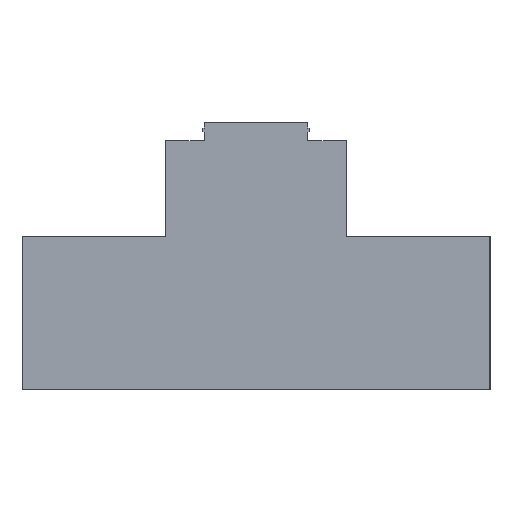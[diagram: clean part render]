
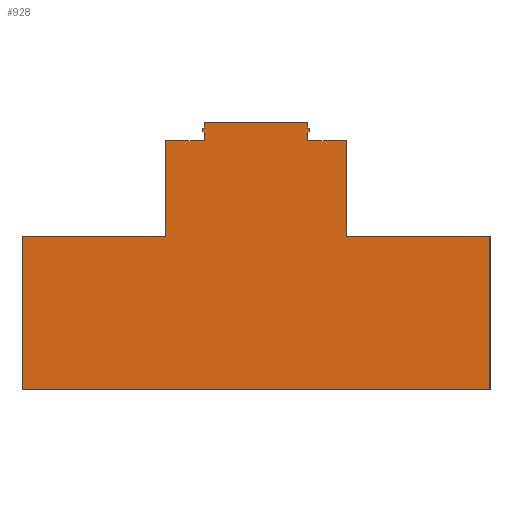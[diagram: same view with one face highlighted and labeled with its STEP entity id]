
A CAD part, left-side view. The second image highlights one B-rep face of the part: STEP entity #928.
In plain terms, the highlighted planar face has unit normal (-1, 0, 0).
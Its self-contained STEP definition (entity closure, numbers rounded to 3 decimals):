
#8 = ORIENTED_EDGE ( 'NONE', *, *, #248, .F. ) ;
#11 = LINE ( 'NONE', #999, #570 ) ;
#16 = EDGE_CURVE ( 'NONE', #131, #1057, #199, .T. ) ;
#21 = ORIENTED_EDGE ( 'NONE', *, *, #550, .T. ) ;
#25 = ORIENTED_EDGE ( 'NONE', *, *, #419, .T. ) ;
#39 = ORIENTED_EDGE ( 'NONE', *, *, #240, .T. ) ;
#46 = EDGE_CURVE ( 'NONE', #761, #475, #1084, .T. ) ;
#57 = LINE ( 'NONE', #408, #558 ) ;
#61 = CARTESIAN_POINT ( 'NONE',  ( -62.3, 8.5, -39.4 ) ) ;
#81 = ORIENTED_EDGE ( 'NONE', *, *, #198, .T. ) ;
#104 = CARTESIAN_POINT ( 'NONE',  ( -62.3, -8.5, 4.8 ) ) ;
#105 = LINE ( 'NONE', #275, #995 ) ;
#108 = VECTOR ( 'NONE', #808, 1000. ) ;
#122 = LINE ( 'NONE', #463, #883 ) ;
#123 = CARTESIAN_POINT ( 'NONE',  ( -62.3, 46.851, -17.005 ) ) ;
#131 = VERTEX_POINT ( 'NONE', #872 ) ;
#155 = CARTESIAN_POINT ( 'NONE',  ( -62.3, 49.071, -10.907 ) ) ;
#162 = ORIENTED_EDGE ( 'NONE', *, *, #1076, .F. ) ;
#166 = DIRECTION ( 'NONE',  ( 0., 0., -1. ) ) ;
#170 = CARTESIAN_POINT ( 'NONE',  ( -62.3, 38.5, -39.2 ) ) ;
#177 = CARTESIAN_POINT ( 'NONE',  ( -62.3, 14.9, -14. ) ) ;
#189 = VECTOR ( 'NONE', #714, 1000. ) ;
#198 = EDGE_CURVE ( 'NONE', #215, #527, #393, .T. ) ;
#199 = LINE ( 'NONE', #123, #189 ) ;
#202 = CARTESIAN_POINT ( 'NONE',  ( -62.3, 38.5, 5. ) ) ;
#203 = EDGE_CURVE ( 'NONE', #1057, #730, #479, .T. ) ;
#206 = CARTESIAN_POINT ( 'NONE',  ( -62.3, -14.9, -14. ) ) ;
#212 = DIRECTION ( 'NONE',  ( 0., 0., -1. ) ) ;
#215 = VERTEX_POINT ( 'NONE', #557 ) ;
#218 = ORIENTED_EDGE ( 'NONE', *, *, #16, .F. ) ;
#221 = DIRECTION ( 'NONE',  ( 0., 0., -1. ) ) ;
#226 = LINE ( 'NONE', #376, #794 ) ;
#234 = CARTESIAN_POINT ( 'NONE',  ( -62.3, 38.7, -39.4 ) ) ;
#240 = EDGE_CURVE ( 'NONE', #1002, #311, #431, .T. ) ;
#248 = EDGE_CURVE ( 'NONE', #908, #559, #11, .T. ) ;
#253 = CARTESIAN_POINT ( 'NONE',  ( -62.3, 38.7, 1.8 ) ) ;
#262 = DIRECTION ( 'NONE',  ( 0., 0., -1. ) ) ;
#265 = LINE ( 'NONE', #615, #608 ) ;
#275 = CARTESIAN_POINT ( 'NONE',  ( -62.3, 21.495, 7.871 ) ) ;
#283 = ORIENTED_EDGE ( 'NONE', *, *, #751, .F. ) ;
#292 = CARTESIAN_POINT ( 'NONE',  ( -62.3, 38.7, 1.8 ) ) ;
#296 = EDGE_CURVE ( 'NONE', #559, #761, #1071, .T. ) ;
#306 = DIRECTION ( 'NONE',  ( 0., -0.94, -0.342 ) ) ;
#311 = VERTEX_POINT ( 'NONE', #609 ) ;
#312 = CARTESIAN_POINT ( 'NONE',  ( -62.3, 14.9, -14. ) ) ;
#319 = CARTESIAN_POINT ( 'NONE',  ( -62.3, 8.5, 4.8 ) ) ;
#326 = CARTESIAN_POINT ( 'NONE',  ( -62.3, 8.8, 3.75 ) ) ;
#350 = EDGE_CURVE ( 'NONE', #372, #621, #478, .T. ) ;
#351 = VERTEX_POINT ( 'NONE', #400 ) ;
#357 = VECTOR ( 'NONE', #481, 1000. ) ;
#372 = VERTEX_POINT ( 'NONE', #549 ) ;
#376 = CARTESIAN_POINT ( 'NONE',  ( -62.3, -38.5, 5. ) ) ;
#387 = VERTEX_POINT ( 'NONE', #312 ) ;
#388 = DIRECTION ( 'NONE',  ( 0., -1., 0. ) ) ;
#393 = LINE ( 'NONE', #202, #936 ) ;
#396 = PLANE ( 'NONE',  #700 ) ;
#399 = LINE ( 'NONE', #563, #434 ) ;
#400 = CARTESIAN_POINT ( 'NONE',  ( -62.3, -14.9, 1.8 ) ) ;
#401 = EDGE_CURVE ( 'NONE', #311, #351, #797, .T. ) ;
#406 = ORIENTED_EDGE ( 'NONE', *, *, #522, .F. ) ;
#408 = CARTESIAN_POINT ( 'NONE',  ( -62.3, 38.7, 4.8 ) ) ;
#413 = FACE_OUTER_BOUND ( 'NONE', #692, .T. ) ;
#419 = EDGE_CURVE ( 'NONE', #561, #1002, #226, .T. ) ;
#421 = LINE ( 'NONE', #253, #812 ) ;
#426 = DIRECTION ( 'NONE',  ( 0., 1., 0. ) ) ;
#431 = LINE ( 'NONE', #664, #880 ) ;
#434 = VECTOR ( 'NONE', #306, 1000. ) ;
#442 = DIRECTION ( 'NONE',  ( 0., 0.94, 0.342 ) ) ;
#463 = CARTESIAN_POINT ( 'NONE',  ( -62.3, -8.5, -39.4 ) ) ;
#469 = VECTOR ( 'NONE', #262, 1000. ) ;
#472 = EDGE_CURVE ( 'NONE', #730, #351, #421, .T. ) ;
#475 = VERTEX_POINT ( 'NONE', #319 ) ;
#478 = LINE ( 'NONE', #61, #108 ) ;
#479 = LINE ( 'NONE', #551, #622 ) ;
#481 = DIRECTION ( 'NONE',  ( 0., 0., 1. ) ) ;
#498 = DIRECTION ( 'NONE',  ( 0., -1., 0. ) ) ;
#499 = DIRECTION ( 'NONE',  ( 0., -1., 0. ) ) ;
#503 = VERTEX_POINT ( 'NONE', #669 ) ;
#505 = VECTOR ( 'NONE', #996, 1000. ) ;
#515 = ORIENTED_EDGE ( 'NONE', *, *, #851, .F. ) ;
#522 = EDGE_CURVE ( 'NONE', #561, #527, #844, .T. ) ;
#527 = VERTEX_POINT ( 'NONE', #170 ) ;
#549 = CARTESIAN_POINT ( 'NONE',  ( -62.3, 8.5, 1.8 ) ) ;
#550 = EDGE_CURVE ( 'NONE', #387, #215, #903, .T. ) ;
#551 = CARTESIAN_POINT ( 'NONE',  ( -62.3, -8.5, -39.4 ) ) ;
#557 = CARTESIAN_POINT ( 'NONE',  ( -62.3, 38.5, -14. ) ) ;
#558 = VECTOR ( 'NONE', #499, 1000. ) ;
#559 = VERTEX_POINT ( 'NONE', #326 ) ;
#561 = VERTEX_POINT ( 'NONE', #661 ) ;
#563 = CARTESIAN_POINT ( 'NONE',  ( -62.3, 19.275, 13.969 ) ) ;
#570 = VECTOR ( 'NONE', #1013, 1000. ) ;
#583 = EDGE_CURVE ( 'NONE', #660, #387, #943, .T. ) ;
#591 = VECTOR ( 'NONE', #388, 1000. ) ;
#595 = CARTESIAN_POINT ( 'NONE',  ( -62.3, 8.5, 3.859 ) ) ;
#597 = VERTEX_POINT ( 'NONE', #104 ) ;
#608 = VECTOR ( 'NONE', #166, 1000. ) ;
#609 = CARTESIAN_POINT ( 'NONE',  ( -62.3, -14.9, -14. ) ) ;
#615 = CARTESIAN_POINT ( 'NONE',  ( -62.3, -8.8, -39.4 ) ) ;
#621 = VERTEX_POINT ( 'NONE', #1051 ) ;
#622 = VECTOR ( 'NONE', #718, 1000. ) ;
#633 = ORIENTED_EDGE ( 'NONE', *, *, #296, .F. ) ;
#648 = DIRECTION ( 'NONE',  ( 0., 0., 1. ) ) ;
#652 = EDGE_CURVE ( 'NONE', #503, #987, #399, .T. ) ;
#660 = VERTEX_POINT ( 'NONE', #957 ) ;
#661 = CARTESIAN_POINT ( 'NONE',  ( -62.3, -38.5, -39.2 ) ) ;
#664 = CARTESIAN_POINT ( 'NONE',  ( -62.3, -38.7, -14. ) ) ;
#667 = CARTESIAN_POINT ( 'NONE',  ( -62.3, -8.5, 1.8 ) ) ;
#669 = CARTESIAN_POINT ( 'NONE',  ( -62.3, -8.5, 3.859 ) ) ;
#684 = ORIENTED_EDGE ( 'NONE', *, *, #904, .F. ) ;
#692 = EDGE_LOOP ( 'NONE', ( #722, #1039, #21, #81, #406, #25, #39, #1032, #831, #857, #218, #162, #870, #515, #684, #859, #633, #8, #283, #871 ) ) ;
#700 = AXIS2_PLACEMENT_3D ( 'NONE', #234, #1072, #1061 ) ;
#710 = VECTOR ( 'NONE', #993, 1000. ) ;
#714 = DIRECTION ( 'NONE',  ( 0., 0.94, -0.342 ) ) ;
#718 = DIRECTION ( 'NONE',  ( 0., 0., -1. ) ) ;
#722 = ORIENTED_EDGE ( 'NONE', *, *, #830, .F. ) ;
#725 = VECTOR ( 'NONE', #648, 1000. ) ;
#730 = VERTEX_POINT ( 'NONE', #667 ) ;
#741 = CARTESIAN_POINT ( 'NONE',  ( -62.3, 38.7, -14. ) ) ;
#751 = EDGE_CURVE ( 'NONE', #621, #908, #105, .T. ) ;
#761 = VERTEX_POINT ( 'NONE', #595 ) ;
#779 = VECTOR ( 'NONE', #1078, 1000. ) ;
#794 = VECTOR ( 'NONE', #1042, 1000. ) ;
#797 = LINE ( 'NONE', #206, #725 ) ;
#808 = DIRECTION ( 'NONE',  ( 0., 0., 1. ) ) ;
#812 = VECTOR ( 'NONE', #498, 1000. ) ;
#819 = CARTESIAN_POINT ( 'NONE',  ( -62.3, 38.7, -39.2 ) ) ;
#822 = CARTESIAN_POINT ( 'NONE',  ( -62.3, -38.5, -14. ) ) ;
#823 = CARTESIAN_POINT ( 'NONE',  ( -62.3, 8.5, -39.4 ) ) ;
#830 = EDGE_CURVE ( 'NONE', #660, #372, #873, .T. ) ;
#831 = ORIENTED_EDGE ( 'NONE', *, *, #472, .F. ) ;
#844 = LINE ( 'NONE', #819, #710 ) ;
#851 = EDGE_CURVE ( 'NONE', #597, #503, #122, .T. ) ;
#857 = ORIENTED_EDGE ( 'NONE', *, *, #203, .F. ) ;
#859 = ORIENTED_EDGE ( 'NONE', *, *, #46, .F. ) ;
#870 = ORIENTED_EDGE ( 'NONE', *, *, #652, .F. ) ;
#871 = ORIENTED_EDGE ( 'NONE', *, *, #350, .F. ) ;
#872 = CARTESIAN_POINT ( 'NONE',  ( -62.3, -8.8, 3.25 ) ) ;
#873 = LINE ( 'NONE', #292, #591 ) ;
#880 = VECTOR ( 'NONE', #426, 1000. ) ;
#883 = VECTOR ( 'NONE', #212, 1000. ) ;
#903 = LINE ( 'NONE', #741, #779 ) ;
#904 = EDGE_CURVE ( 'NONE', #475, #597, #57, .T. ) ;
#908 = VERTEX_POINT ( 'NONE', #1083 ) ;
#928 = ADVANCED_FACE ( 'NONE', ( #413 ), #396, .T. ) ;
#936 = VECTOR ( 'NONE', #221, 1000. ) ;
#943 = LINE ( 'NONE', #177, #469 ) ;
#944 = CARTESIAN_POINT ( 'NONE',  ( -62.3, -8.5, 3.141 ) ) ;
#957 = CARTESIAN_POINT ( 'NONE',  ( -62.3, 14.9, 1.8 ) ) ;
#987 = VERTEX_POINT ( 'NONE', #990 ) ;
#990 = CARTESIAN_POINT ( 'NONE',  ( -62.3, -8.8, 3.75 ) ) ;
#993 = DIRECTION ( 'NONE',  ( 0., 1., 0. ) ) ;
#995 = VECTOR ( 'NONE', #442, 1000. ) ;
#996 = DIRECTION ( 'NONE',  ( 0., -0.94, 0.342 ) ) ;
#999 = CARTESIAN_POINT ( 'NONE',  ( -62.3, 8.8, -39.4 ) ) ;
#1002 = VERTEX_POINT ( 'NONE', #822 ) ;
#1013 = DIRECTION ( 'NONE',  ( 0., 0., 1. ) ) ;
#1032 = ORIENTED_EDGE ( 'NONE', *, *, #401, .T. ) ;
#1039 = ORIENTED_EDGE ( 'NONE', *, *, #583, .T. ) ;
#1042 = DIRECTION ( 'NONE',  ( 0., 0., 1. ) ) ;
#1051 = CARTESIAN_POINT ( 'NONE',  ( -62.3, 8.5, 3.141 ) ) ;
#1057 = VERTEX_POINT ( 'NONE', #944 ) ;
#1061 = DIRECTION ( 'NONE',  ( 0., -1., 0. ) ) ;
#1071 = LINE ( 'NONE', #155, #505 ) ;
#1072 = DIRECTION ( 'NONE',  ( -1., 0., 0. ) ) ;
#1076 = EDGE_CURVE ( 'NONE', #987, #131, #265, .T. ) ;
#1078 = DIRECTION ( 'NONE',  ( 0., 1., 0. ) ) ;
#1083 = CARTESIAN_POINT ( 'NONE',  ( -62.3, 8.8, 3.25 ) ) ;
#1084 = LINE ( 'NONE', #823, #357 ) ;
